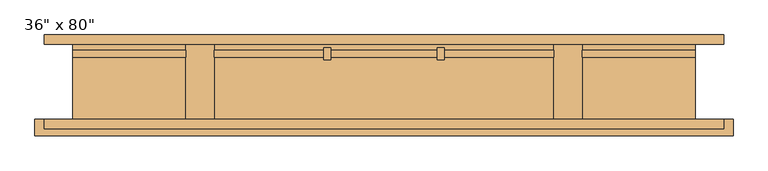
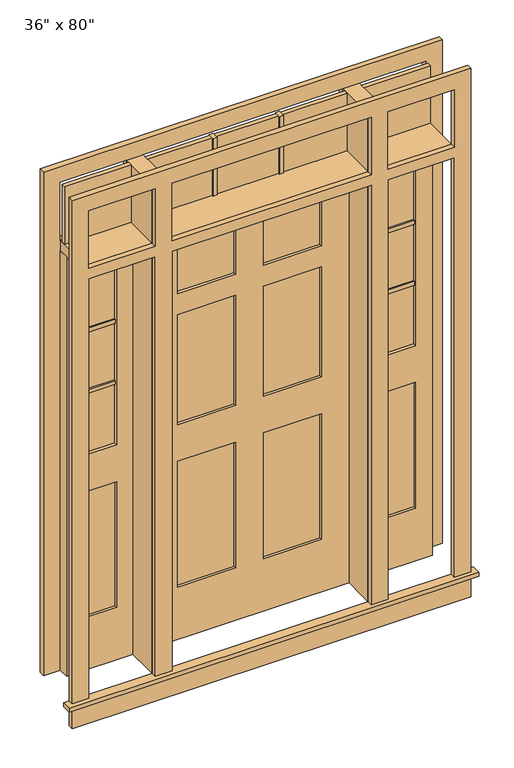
"""IFC4 building model written with IfcOpenShell, lengths in millimetres: door geometry."""

import ifcopenshell
import ifcopenshell.guid

model = None  # the IFC model being written
_history = None  # IfcOwnerHistory: only IFC2X3 demands one
_inside = {}  # id of a spatial element -> (the spatial element, [elements in it])
_under = {}  # id of a project, library or spatial element -> (it, [spatial elements below it])
_declared = {}  # id of a project -> (the project, [libraries it declares])
_typed = {}  # id of a type object -> (the type object, [elements of that type])
_made_of = {}  # id of a material, layer set ... -> (it, [elements and type objects made of it])


def new_model(schema):
    """Start an empty IFC model of exactly this schema.

    Asked for "IFC4X3", IfcOpenShell would pick the latest addendum, in which some entities
    have other attributes; the version numbers below select the first issue.
    IFC2X3 requires an IfcOwnerHistory on every rooted entity: one is made here for all.
    """
    global model, _history
    if schema == "IFC4X3":
        model = ifcopenshell.file(schema_version=(4, 3, 0, 0))
    else:
        model = ifcopenshell.file(schema=schema)
    _inside.clear()
    _under.clear()
    _declared.clear()
    _typed.clear()
    _made_of.clear()
    _history = None
    if model.schema == "IFC2X3":
        org = make("IfcOrganization", Name="unknown")
        user = make(
            "IfcPersonAndOrganization",
            ThePerson=make("IfcPerson", FamilyName="unknown"),
            TheOrganization=org,
        )
        app = make(
            "IfcApplication",
            ApplicationDeveloper=org,
            Version="unknown",
            ApplicationFullName="unknown",
            ApplicationIdentifier="unknown",
        )
        _history = make(
            "IfcOwnerHistory",
            OwningUser=user,
            OwningApplication=app,
            ChangeAction="ADDED",
            CreationDate=0,
        )
    return model


def make(cls, **values):
    """One entity of the class cls with the attributes given. An attribute that is None is left unset."""
    return model.create_entity(
        cls, **{name: value for name, value in values.items() if value is not None}
    )


def rooted(cls, **values):
    """An entity with a GlobalId (a new one), such as an element, a storey or a relation."""
    return make(cls, GlobalId=ifcopenshell.guid.new(), OwnerHistory=_history, **values)


def si_unit(unit_type, name, prefix=None):
    """IfcSIUnit, for example si_unit("LENGTHUNIT", "METRE", prefix="MILLI")."""
    return make("IfcSIUnit", UnitType=unit_type, Prefix=prefix, Name=name)


def assignment(units):
    """IfcUnitAssignment: the units of a project."""
    return None if units is None else make("IfcUnitAssignment", Units=units)


def point(xyz):
    """IfcCartesianPoint."""
    return None if xyz is None else make("IfcCartesianPoint", Coordinates=xyz)


def direction(xyz):
    """IfcDirection."""
    return None if xyz is None else make("IfcDirection", DirectionRatios=xyz)


def frame(location, z_axis=None, x_axis=None):
    """IfcAxis2Placement3D, a coordinate frame: its origin and axes. An axis left out is left unset."""
    return make(
        "IfcAxis2Placement3D",
        Location=point(location),
        Axis=direction(z_axis),
        RefDirection=direction(x_axis),
    )


def origin():
    """The frame at (0, 0, 0) with its axes left unset."""
    return frame((0.0, 0.0, 0.0))


def origin_with_axes():
    """The frame at (0, 0, 0) with the z axis (0, 0, 1) and the x axis (1, 0, 0) written out."""
    return frame((0.0, 0.0, 0.0), z_axis=(0.0, 0.0, 1.0), x_axis=(1.0, 0.0, 0.0))


def place(relative_to, where):
    """IfcLocalPlacement: puts the frame where relative to a parent placement (None: the world)."""
    return make(
        "IfcLocalPlacement", PlacementRelTo=relative_to, RelativePlacement=where
    )


def context(
    kind, dimensions, precision=None, world=None, true_north=None, identifier=None
):
    """IfcGeometricRepresentationContext, for example the 3D "Model" context."""
    return make(
        "IfcGeometricRepresentationContext",
        ContextIdentifier=identifier,
        ContextType=kind,
        CoordinateSpaceDimension=dimensions,
        Precision=precision,
        WorldCoordinateSystem=world,
        TrueNorth=true_north,
    )


def project(units=None, contexts=None):
    """IfcProject with its units and contexts."""
    return rooted(
        "IfcProject",
        Name="project",
        RepresentationContexts=contexts,
        UnitsInContext=assignment(units),
    )


def spatial(cls, under=None, at=None, **own):
    """A site, building, storey or space (cls), placed at a placement, below another one or the project."""
    s = rooted(cls, ObjectPlacement=at, **own)
    if under is not None:
        _under.setdefault(under.id(), (under, []))[1].append(s)
    return s


def polyline(points):
    """IfcPolyline through the points."""
    return make("IfcPolyline", Points=[point(p) for p in points])


def outline(outer, holes=None, kind="AREA"):
    """IfcArbitraryClosedProfileDef: a profile drawn as a closed curve; with holes, ...WithVoids."""
    if holes is None:
        return make("IfcArbitraryClosedProfileDef", ProfileType=kind, OuterCurve=outer)
    return make(
        "IfcArbitraryProfileDefWithVoids",
        ProfileType=kind,
        OuterCurve=outer,
        InnerCurves=holes,
    )


def extrude(swept, where, along, depth):
    """IfcExtrudedAreaSolid: the profile swept, set in the frame where, extruded along a direction by depth."""
    return make(
        "IfcExtrudedAreaSolid",
        SweptArea=swept,
        Position=where,
        ExtrudedDirection=direction(along),
        Depth=depth,
    )


def shape(context_of_items, identifier, shape_type, items):
    """IfcShapeRepresentation: the items that make up one representation, for example the "Body"."""
    return make(
        "IfcShapeRepresentation",
        ContextOfItems=context_of_items,
        RepresentationIdentifier=identifier,
        RepresentationType=shape_type,
        Items=items,
    )


def source(mapping_origin, context_of_items, identifier, shape_type, items):
    """IfcRepresentationMap: a shape defined once, which mapped items show again and again."""
    return make(
        "IfcRepresentationMap",
        MappingOrigin=mapping_origin,
        MappedRepresentation=shape(context_of_items, identifier, shape_type, items),
    )


def transform(
    local_origin,
    x_axis=None,
    y_axis=None,
    z_axis=None,
    scale=None,
    scale2=None,
    scale3=None,
    uniform=True,
):
    """IfcCartesianTransformationOperator3D, or its non-uniform kind. x_axis, y_axis, z_axis: its Axis1, 2, 3."""
    if uniform:
        return make(
            "IfcCartesianTransformationOperator3D",
            Axis1=direction(x_axis),
            Axis2=direction(y_axis),
            LocalOrigin=point(local_origin),
            Scale=scale,
            Axis3=direction(z_axis),
        )
    return make(
        "IfcCartesianTransformationOperator3DnonUniform",
        Axis1=direction(x_axis),
        Axis2=direction(y_axis),
        LocalOrigin=point(local_origin),
        Scale=scale,
        Axis3=direction(z_axis),
        Scale2=scale2,
        Scale3=scale3,
    )


def mapped(mapping_source, mapping_target):
    """IfcMappedItem: shows the shape of a source again, moved by a transform."""
    return make(
        "IfcMappedItem", MappingSource=mapping_source, MappingTarget=mapping_target
    )


def made_of(thing, what):
    """Note that an element or type object is made of a material, layer set ...; save() writes the relation."""
    if what is not None:
        _made_of.setdefault(what.id(), (what, []))[1].append(thing)
    return thing


def element(
    cls,
    number,
    at=None,
    inside=None,
    cuts=None,
    type_object=None,
    material=None,
    context=None,
    identifier="Body",
    shape_type=None,
    held_by="IfcProductDefinitionShape",
    body=None,
    shapes=None,
    **own,
):
    """One element of the class cls, such as IfcWall. Its Tag is "e" and its number.

    at: its placement. inside: the storey or other place that contains it. cuts: it is an
    opening in that element (IfcRelVoidsElement). A single representation is given by context,
    identifier, shape_type and body (its items); several are given by shapes. held_by: the class
    of the entity that holds the representations. save() writes the other relations.
    """
    e = rooted(cls, Tag="e%d" % number, ObjectPlacement=at, **own)
    if body is not None:
        shapes = [shape(context, identifier, shape_type, body)]
    if shapes is not None:
        e.Representation = make(held_by, Representations=shapes)
    if inside is not None:
        _inside.setdefault(inside.id(), (inside, []))[1].append(e)
    if cuts is not None:
        rooted(
            "IfcRelVoidsElement", RelatingBuildingElement=cuts, RelatedOpeningElement=e
        )
    if type_object is not None:
        _typed.setdefault(type_object.id(), (type_object, []))[1].append(e)
    return made_of(e, material)


def aggregate(whole, parts):
    """IfcRelAggregates: a whole, such as a stair, and the parts it consists of."""
    return rooted("IfcRelAggregates", RelatingObject=whole, RelatedObjects=parts)


def save(model, path):
    """Write the relations noted so far, then the file.

    IfcRelAggregates (storeys below a building ...), IfcRelContainedInSpatialStructure (elements
    in a storey), IfcRelDefinesByType, IfcRelAssociatesMaterial and IfcRelDeclares: one each for
    every whole, place, type object, material and project.
    """
    for whole, parts in _under.values():
        aggregate(whole, parts)
    for where, things in _inside.values():
        rooted(
            "IfcRelContainedInSpatialStructure",
            RelatedElements=things,
            RelatingStructure=where,
        )
    for kind, things in _typed.values():
        rooted("IfcRelDefinesByType", RelatedObjects=things, RelatingType=kind)
    for what, things in _made_of.values():
        rooted("IfcRelAssociatesMaterial", RelatedObjects=things, RelatingMaterial=what)
    for by, libraries in _declared.values():
        rooted("IfcRelDeclares", RelatingContext=by, RelatedDefinitions=libraries)
    model.write(path)


def door_07468d71(model_context):
    return source(origin(), model_context, "Body", "SweptSolid", [
        extrude(outline(polyline([(-142.875, 59.53125), (-161.925, 59.53125), (-161.925, 91.28125), (-142.875, 91.28125), (-142.875, 59.53125)])), frame((0.0, 0.0, 2082.8), z_axis=(0.0, 0.0, 1.0), x_axis=(1.0, 0.0, 0.0)), (0.0, 0.0, 1.0), 279.4),
        extrude(outline(polyline([(161.925, 59.53125), (142.875, 59.53125), (142.875, 91.28125), (161.925, 91.28125), (161.925, 59.53125)])), frame((0.0, 0.0, 2082.8), z_axis=(0.0, 0.0, 1.0), x_axis=(1.0, 0.0, 0.0)), (0.0, 0.0, 1.0), 279.4),
        extrude(outline(polyline([(838.2, 65.88125), (533.4, 65.88125), (533.4, 84.93125), (838.2, 84.93125), (838.2, 65.88125)])), frame((0.0, 0.0, 2082.8), z_axis=(0.0, 0.0, 1.0), x_axis=(1.0, 0.0, 0.0)), (0.0, 0.0, 1.0), 279.4),
        extrude(outline(polyline([(457.2, 65.88125), (-457.2, 65.88125), (-457.2, 84.93125), (457.2, 84.93125), (457.2, 65.88125)])), frame((0.0, 0.0, 2082.8), z_axis=(0.0, 0.0, 1.0), x_axis=(1.0, 0.0, 0.0)), (0.0, 0.0, 1.0), 279.4),
        extrude(outline(polyline([(-533.4, 65.88125), (-838.2, 65.88125), (-838.2, 84.93125), (-533.4, 84.93125), (-533.4, 65.88125)])), frame((0.0, 0.0, 2082.8), z_axis=(0.0, 0.0, 1.0), x_axis=(1.0, 0.0, 0.0)), (0.0, 0.0, 1.0), 279.4),
        extrude(outline(polyline([(762.0, 59.53125), (609.6, 59.53125), (609.6, 91.28125), (762.0, 91.28125), (762.0, 59.53125)])), frame((0.0, 0.0, 1328.2083333), z_axis=(0.0, 0.0, 1.0), x_axis=(1.0, 0.0, 0.0)), (0.0, 0.0, 1.0), 19.05),
        extrude(outline(polyline([(762.0, 59.53125), (609.6, 59.53125), (609.6, 91.28125), (762.0, 91.28125), (762.0, 59.53125)])), frame((0.0, 0.0, 1624.5416667), z_axis=(0.0, 0.0, 1.0), x_axis=(1.0, 0.0, 0.0)), (0.0, 0.0, 1.0), 19.05),
        extrude(outline(polyline([(-609.6, 59.53125), (-762.0, 59.53125), (-762.0, 91.28125), (-609.6, 91.28125), (-609.6, 59.53125)])), frame((0.0, 0.0, 1624.5416667), z_axis=(0.0, 0.0, 1.0), x_axis=(1.0, 0.0, 0.0)), (0.0, 0.0, 1.0), 19.05),
        extrude(outline(polyline([(-609.6, 59.53125), (-762.0, 59.53125), (-762.0, 91.28125), (-609.6, 91.28125), (-609.6, 59.53125)])), frame((0.0, 0.0, 1328.2083333), z_axis=(0.0, 0.0, 1.0), x_axis=(1.0, 0.0, 0.0)), (0.0, 0.0, 1.0), 19.05),
        extrude(outline(polyline([(762.0, 65.88125), (609.6, 65.88125), (609.6, 84.93125), (762.0, 84.93125), (762.0, 65.88125)])), frame((0.0, 0.0, 1041.4), z_axis=(0.0, 0.0, 1.0), x_axis=(1.0, 0.0, 0.0)), (0.0, 0.0, 1.0), 889.0),
        extrude(outline(polyline([(-609.6, 65.88125), (-762.0, 65.88125), (-762.0, 84.93125), (-609.6, 84.93125), (-609.6, 65.88125)])), frame((0.0, 0.0, 1041.4), z_axis=(0.0, 0.0, 1.0), x_axis=(1.0, 0.0, 0.0)), (0.0, 0.0, 1.0), 889.0),
        extrude(outline(polyline([(-457.2, -100.80625), (-533.4, -100.80625), (-533.4, 100.80625), (-457.2, 100.80625), (-457.2, -100.80625)])), origin_with_axes(), (0.0, 0.0, 1.0), 2362.2),
        extrude(outline(polyline([(533.4, -100.80625), (457.2, -100.80625), (457.2, 100.80625), (533.4, 100.80625), (533.4, -100.80625)])), origin_with_axes(), (0.0, 0.0, 1.0), 2362.2),
        extrude(outline(polyline([(2032.0, -533.4), (2032.0, -838.2), (0.0, -838.2), (0.0, -533.4), (2032.0, -533.4)]), holes=[polyline([(1930.4, -609.6), (1041.4, -609.6), (1041.4, -762.0), (1930.4, -762.0), (1930.4, -609.6)]), polyline([(863.6, -762.0), (863.6, -609.6), (254.0, -609.6), (254.0, -762.0), (863.6, -762.0)])]), frame((0.0, 50.00625, 0.0), z_axis=(0.0, 1.0, 0.0), x_axis=(0.0, 0.0, 1.0)), (0.0, 0.0, 1.0), 50.8),
        extrude(outline(polyline([(0.0, 533.4), (0.0, 838.2), (2032.0, 838.2), (2032.0, 533.4), (0.0, 533.4)]), holes=[polyline([(1930.4, 762.0), (1041.4, 762.0), (1041.4, 609.6), (1930.4, 609.6), (1930.4, 762.0)]), polyline([(863.6, 609.6), (863.6, 762.0), (254.0, 762.0), (254.0, 609.6), (863.6, 609.6)])]), frame((0.0, 50.00625, 0.0), z_axis=(0.0, 1.0, 0.0), x_axis=(0.0, 0.0, 1.0)), (0.0, 0.0, 1.0), 50.8),
        extrude(outline(polyline([(0.0, -914.4), (0.0, -838.2), (2032.0, -838.2), (2032.0, -533.4), (0.0, -533.4), (0.0, -457.2), (2032.0, -457.2), (2032.0, 457.2), (0.0, 457.2), (0.0, 533.4), (2032.0, 533.4), (2032.0, 838.2), (0.0, 838.2), (0.0, 914.4), (2438.4, 914.4), (2438.4, -914.4), (0.0, -914.4)]), holes=[polyline([(2082.8, -533.4), (2082.8, -838.2), (2362.2, -838.2), (2362.2, -533.4), (2082.8, -533.4)]), polyline([(2362.2, -457.2), (2362.2, 457.2), (2082.8, 457.2), (2082.8, -457.2), (2362.2, -457.2)]), polyline([(2362.2, 533.4), (2362.2, 838.2), (2082.8, 838.2), (2082.8, 533.4), (2362.2, 533.4)])]), frame((0.0, -126.20625, 0.0), z_axis=(0.0, 1.0, 0.0), x_axis=(0.0, 0.0, 1.0)), (0.0, 0.0, 1.0), 25.4),
        extrude(outline(polyline([(-914.4, -100.80625), (914.4, -100.80625), (914.4, -126.20625), (-914.4, -126.20625), (-914.4, -100.80625)])), frame((0.0, 0.0, -120.65), z_axis=(0.0, 0.0, 1.0), x_axis=(1.0, 0.0, 0.0)), (0.0, 0.0, 1.0), 101.6),
        extrude(outline(polyline([(0.0, 914.4), (2438.4, 914.4), (2438.4, -914.4), (0.0, -914.4), (0.0, -838.2), (2032.0, -838.2), (2032.0, -533.4), (0.0, -533.4), (0.0, -457.2), (2032.0, -457.2), (2032.0, 457.2), (0.0, 457.2), (0.0, 533.4), (2032.0, 533.4), (2032.0, 838.2), (0.0, 838.2), (0.0, 914.4)]), holes=[polyline([(2362.2, -533.4), (2082.8, -533.4), (2082.8, -838.2), (2362.2, -838.2), (2362.2, -533.4)]), polyline([(2082.8, 533.4), (2362.2, 533.4), (2362.2, 838.2), (2082.8, 838.2), (2082.8, 533.4)]), polyline([(2362.2, 457.2), (2082.8, 457.2), (2082.8, -457.2), (2362.2, -457.2), (2362.2, 457.2)])]), frame((0.0, 100.80625, 0.0), z_axis=(0.0, 1.0, 0.0), x_axis=(0.0, 0.0, 1.0)), (0.0, 0.0, 1.0), 25.4),
        extrude(outline(polyline([(-63.5, 62.70625), (-330.2, 62.70625), (-330.2, 91.28125), (-63.5, 91.28125), (-63.5, 62.70625)])), frame((0.0, 0.0, 1676.4), z_axis=(0.0, 0.0, 1.0), x_axis=(1.0, 0.0, 0.0)), (0.0, 0.0, 1.0), 254.0),
        extrude(outline(polyline([(330.2, 62.70625), (63.5, 62.70625), (63.5, 91.28125), (330.2, 91.28125), (330.2, 62.70625)])), frame((0.0, 0.0, 1676.4), z_axis=(0.0, 0.0, 1.0), x_axis=(1.0, 0.0, 0.0)), (0.0, 0.0, 1.0), 254.0),
        extrude(outline(polyline([(-63.5, 62.70625), (-330.2, 62.70625), (-330.2, 91.28125), (-63.5, 91.28125), (-63.5, 62.70625)])), frame((0.0, 0.0, 1041.4), z_axis=(0.0, 0.0, 1.0), x_axis=(1.0, 0.0, 0.0)), (0.0, 0.0, 1.0), 533.4),
        extrude(outline(polyline([(330.2, 62.70625), (63.5, 62.70625), (63.5, 91.28125), (330.2, 91.28125), (330.2, 62.70625)])), frame((0.0, 0.0, 1041.4), z_axis=(0.0, 0.0, 1.0), x_axis=(1.0, 0.0, 0.0)), (0.0, 0.0, 1.0), 533.4),
        extrude(outline(polyline([(-63.5, 62.70625), (-330.2, 62.70625), (-330.2, 91.28125), (-63.5, 91.28125), (-63.5, 62.70625)])), frame((0.0, 0.0, 254.0), z_axis=(0.0, 0.0, 1.0), x_axis=(1.0, 0.0, 0.0)), (0.0, 0.0, 1.0), 609.6),
        extrude(outline(polyline([(330.2, 62.70625), (63.5, 62.70625), (63.5, 91.28125), (330.2, 91.28125), (330.2, 62.70625)])), frame((0.0, 0.0, 254.0), z_axis=(0.0, 0.0, 1.0), x_axis=(1.0, 0.0, 0.0)), (0.0, 0.0, 1.0), 609.6),
        extrude(outline(polyline([(-609.6, 62.70625), (-762.0, 62.70625), (-762.0, 91.28125), (-609.6, 91.28125), (-609.6, 62.70625)])), frame((0.0, 0.0, 254.0), z_axis=(0.0, 0.0, 1.0), x_axis=(1.0, 0.0, 0.0)), (0.0, 0.0, 1.0), 609.6),
        extrude(outline(polyline([(762.0, 62.70625), (609.6, 62.70625), (609.6, 91.28125), (762.0, 91.28125), (762.0, 62.70625)])), frame((0.0, 0.0, 254.0), z_axis=(0.0, 0.0, 1.0), x_axis=(1.0, 0.0, 0.0)), (0.0, 0.0, 1.0), 609.6),
        extrude(outline(polyline([(2032.0, 457.2), (2032.0, -457.2), (0.0, -457.2), (0.0, 457.2), (2032.0, 457.2)]), holes=[polyline([(1930.4, -63.5), (1676.4, -63.5), (1676.4, -330.2), (1930.4, -330.2), (1930.4, -63.5)]), polyline([(1930.4, 330.2), (1676.4, 330.2), (1676.4, 63.5), (1930.4, 63.5), (1930.4, 330.2)]), polyline([(1574.8, -63.5), (1041.4, -63.5), (1041.4, -330.2), (1574.8, -330.2), (1574.8, -63.5)]), polyline([(1574.8, 330.2), (1041.4, 330.2), (1041.4, 63.5), (1574.8, 63.5), (1574.8, 330.2)]), polyline([(863.6, -63.5), (254.0, -63.5), (254.0, -330.2), (863.6, -330.2), (863.6, -63.5)]), polyline([(863.6, 330.2), (254.0, 330.2), (254.0, 63.5), (863.6, 63.5), (863.6, 330.2)])]), frame((0.0, 50.00625, 0.0), z_axis=(0.0, 1.0, 0.0), x_axis=(0.0, 0.0, 1.0)), (0.0, 0.0, 1.0), 50.8),
        extrude(outline(polyline([(838.2, -100.80625), (-838.2, -100.80625), (-838.2, 100.80625), (838.2, 100.80625), (838.2, -100.80625)])), frame((0.0, 0.0, 2032.0), z_axis=(0.0, 0.0, 1.0), x_axis=(1.0, 0.0, 0.0)), (0.0, 0.0, 1.0), 50.8),
        extrude(outline(polyline([(939.8, -145.25625), (-939.8, -145.25625), (-939.8, -100.80625), (939.8, -100.80625), (939.8, -145.25625)])), frame((0.0, 0.0, -19.05), z_axis=(0.0, 0.0, 1.0), x_axis=(1.0, 0.0, 0.0)), (0.0, 0.0, 1.0), 19.05),
    ])


if __name__ == "__main__":
    model = new_model("IFC4")
    model_context = context("Model", 3, world=origin())
    ifc_project = project(units=[si_unit("LENGTHUNIT", "METRE", prefix="MILLI")], contexts=[model_context])
    site = spatial("IfcSite", under=ifc_project)
    building = spatial("IfcBuilding", under=site)
    placement = place(None, origin())
    door_shape = door_07468d71(model_context)
    element("IfcDoor", 1, ObjectType="Entry_Single_SL_TR : 36\" x 80\"", at=placement, inside=building, context=model_context, shape_type="MappedRepresentation", body=[
        mapped(door_shape, transform((0.0, 0.0, 0.0), x_axis=(1.0, 0.0, 0.0), y_axis=(0.0, 1.0, 0.0), z_axis=(0.0, 0.0, 1.0))),
    ])
    save(model, "model.ifc")
